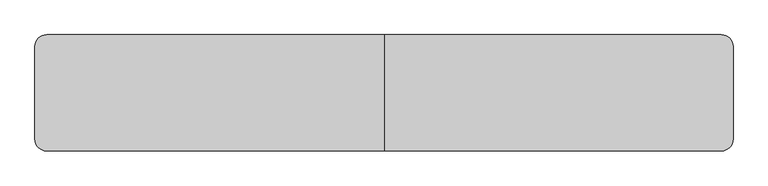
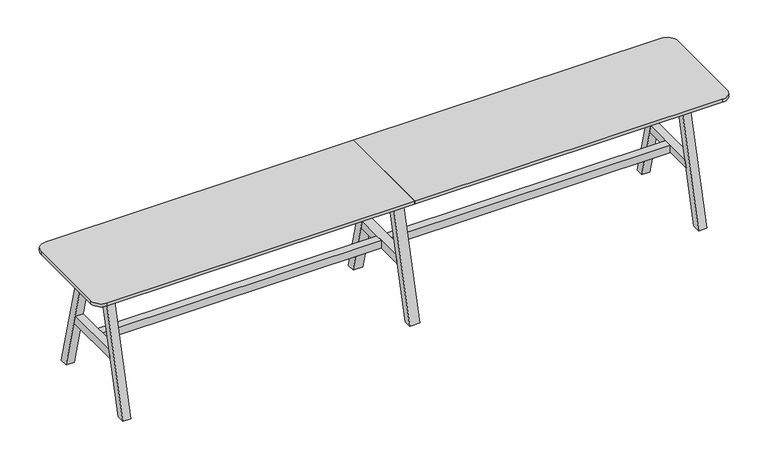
"""IFC4 building model written with IfcOpenShell, lengths in millimetres: furniture geometry, BDG_BossDesign_Tbls_AgentTables6Legs : AGE-DT-6L-3600-600-3D."""

from ifc_helpers import new_model, si_unit, point, frame, frame_2d, origin, place, context, project, spatial, polyline, circle_curve, trimmed, segment, composite_curve, outline, extrude, source, transform, mapped, element, save


def furniture_cd37825a(model_context):
    return source(origin(), model_context, "Body", "SweptSolid", [
        extrude(outline(polyline([(300.0, 0.0), (254.9999949, 0.0), (85.5, 660.0), (130.5000051, 660.0), (300.0, 0.0)])), frame((-27.5, 0.0, 0.0), z_axis=(1.0, 0.0, 0.0), x_axis=(0.0, 1.0, 0.0)), (0.0, 0.0, 1.0), 55.0),
        extrude(outline(polyline([(-300.0, 0.0), (-130.5000051, 660.0), (-85.5, 660.0), (-254.9999949, 0.0), (-300.0, 0.0)])), frame((-27.5, 0.0, 0.0), z_axis=(1.0, 0.0, 0.0), x_axis=(0.0, 1.0, 0.0)), (0.0, 0.0, 1.0), 55.0),
        extrude(outline(polyline([(177.9545427, 300.0), (-177.9545427, 300.0), (-166.3977249, 345.0), (166.3977249, 345.0), (177.9545427, 300.0)])), frame((-27.5, 0.0, 0.0), z_axis=(1.0, 0.0, 0.0), x_axis=(0.0, 1.0, 0.0)), (0.0, 0.0, 1.0), 55.0),
        extrude(outline(composite_curve([segment(polyline([(0.0, 300.0), (0.0, -300.0), (-1740.0, -300.0)]), True, "CONTINUOUS"), segment(trimmed(circle_curve(frame_2d((-1740.0, -240.0)), 60.0), [point((-1740.0, -300.0))], [point((-1800.0, -240.0))], False, "CARTESIAN"), True, "CONTINUOUS"), segment(polyline([(-1800.0, -240.0), (-1800.0, 240.0)]), True, "CONTINUOUS"), segment(trimmed(circle_curve(frame_2d((-1740.0, 240.0)), 60.0), [point((-1800.0, 240.0))], [point((-1740.0, 300.0))], False, "CARTESIAN"), True, "CONTINUOUS"), segment(polyline([(-1740.0, 300.0), (0.0, 300.0)]), True, "CONTINUOUS")], self_intersect=False)), frame((0.0, 0.0, 722.0), z_axis=(0.0, 0.0, 1.0), x_axis=(1.0, 0.0, 0.0)), (0.0, 0.0, 1.0), 18.0),
        extrude(outline(polyline([(-166.3977249, 345.0), (166.3977249, 345.0), (177.9545427, 300.0), (-177.9545427, 300.0), (-166.3977249, 345.0)])), frame((1605.0, 0.0, 0.0), z_axis=(1.0, 0.0, 0.0), x_axis=(0.0, 1.0, 0.0)), (0.0, 0.0, 1.0), 45.0),
        extrude(outline(polyline([(300.0, 0.0), (254.9999949, 0.0), (85.5, 660.0), (130.5000051, 660.0), (300.0, 0.0)])), frame((-1650.0, 0.0, 0.0), z_axis=(1.0, 0.0, 0.0), x_axis=(0.0, 1.0, 0.0)), (0.0, 0.0, 1.0), 45.0),
        extrude(outline(polyline([(-300.0, 0.0), (-130.5000051, 660.0), (-85.5, 660.0), (-254.9999949, 0.0), (-300.0, 0.0)])), frame((-1650.0, 0.0, 0.0), z_axis=(1.0, 0.0, 0.0), x_axis=(0.0, 1.0, 0.0)), (0.0, 0.0, 1.0), 45.0),
        extrude(outline(polyline([(-166.3977249, 345.0), (166.3977249, 345.0), (177.9545427, 300.0), (-177.9545427, 300.0), (-166.3977249, 345.0)])), frame((-1650.0, 0.0, 0.0), z_axis=(1.0, 0.0, 0.0), x_axis=(0.0, 1.0, 0.0)), (0.0, 0.0, 1.0), 45.0),
        extrude(outline(polyline([(-126.6006165, 634.973938), (-104.2770691, 722.0), (-79.5, 722.0), (-101.8235474, 634.973938), (-126.6006165, 634.973938)])), frame((-1605.0, 0.0, 0.0), z_axis=(1.0, 0.0, 0.0), x_axis=(0.0, 1.0, 0.0)), (0.0, 0.0, 1.0), 3210.0),
        extrude(outline(polyline([(126.6006165, 634.973938), (101.8235474, 634.973938), (79.5, 722.0), (104.2770691, 722.0), (126.6006165, 634.973938)])), frame((-1605.0, 0.0, 0.0), z_axis=(1.0, 0.0, 0.0), x_axis=(0.0, 1.0, 0.0)), (0.0, 0.0, 1.0), 3210.0),
        extrude(outline(polyline([(299.7999878, 0.0), (254.7999827, 0.0), (85.5, 660.0), (130.5000051, 660.0), (299.7999878, 0.0)])), frame((1605.0, 0.0, 0.0), z_axis=(1.0, 0.0, 0.0), x_axis=(0.0, 1.0, 0.0)), (0.0, 0.0, 1.0), 45.0),
        extrude(outline(polyline([(-299.7999878, 0.0), (-130.5000051, 660.0), (-85.5, 660.0), (-254.7999827, 0.0), (-299.7999878, 0.0)])), frame((1605.0, 0.0, 0.0), z_axis=(1.0, 0.0, 0.0), x_axis=(0.0, 1.0, 0.0)), (0.0, 0.0, 1.0), 45.0),
        extrude(outline(polyline([(-27.5, 22.5000305), (-27.5, -22.5000305), (-1605.0, -22.5000305), (-1605.0, 22.5000305), (-27.5, 22.5000305)])), frame((0.0, 0.0, 300.0), z_axis=(0.0, 0.0, 1.0), x_axis=(1.0, 0.0, 0.0)), (0.0, 0.0, 1.0), 45.0),
        extrude(outline(polyline([(27.5, -22.5000305), (27.5, 22.5000305), (1605.0, 22.5000305), (1605.0, -22.5000305), (27.5, -22.5000305)])), frame((0.0, 0.0, 300.0), z_axis=(0.0, 0.0, 1.0), x_axis=(1.0, 0.0, 0.0)), (0.0, 0.0, 1.0), 45.0),
        extrude(outline(composite_curve([segment(trimmed(circle_curve(frame_2d((1740.0, 240.0)), 60.0), [point((1740.0, 300.0))], [point((1800.0, 240.0))], False, "CARTESIAN"), True, "CONTINUOUS"), segment(polyline([(1800.0, 240.0), (1800.0, -240.0)]), True, "CONTINUOUS"), segment(trimmed(circle_curve(frame_2d((1740.0, -240.0)), 60.0), [point((1800.0, -240.0))], [point((1740.0, -300.0))], False, "CARTESIAN"), True, "CONTINUOUS"), segment(polyline([(1740.0, -300.0), (0.0, -300.0), (0.0, 300.0), (1740.0, 300.0)]), True, "CONTINUOUS")], self_intersect=False)), frame((0.0, 0.0, 722.0), z_axis=(0.0, 0.0, 1.0), x_axis=(1.0, 0.0, 0.0)), (0.0, 0.0, 1.0), 18.0),
    ])


if __name__ == "__main__":
    model = new_model("IFC4")
    model_context = context("Model", 3, world=origin())
    ifc_project = project(units=[si_unit("LENGTHUNIT", "METRE", prefix="MILLI")], contexts=[model_context])
    site = spatial("IfcSite", under=ifc_project)
    building = spatial("IfcBuilding", under=site)
    placement = place(None, origin())
    furniture_shape = furniture_cd37825a(model_context)
    element("IfcFurniture", 1, ObjectType="BDG_BossDesign_Tbls_AgentTables6Legs : AGE-DT-6L-3600-600-3D", at=placement, inside=building, context=model_context, shape_type="MappedRepresentation", body=[
        mapped(furniture_shape, transform((0.0, 0.0, 0.0), x_axis=(1.0, 0.0, 0.0), y_axis=(0.0, 1.0, 0.0), z_axis=(0.0, 0.0, 1.0))),
    ])
    save(model, "model.ifc")
